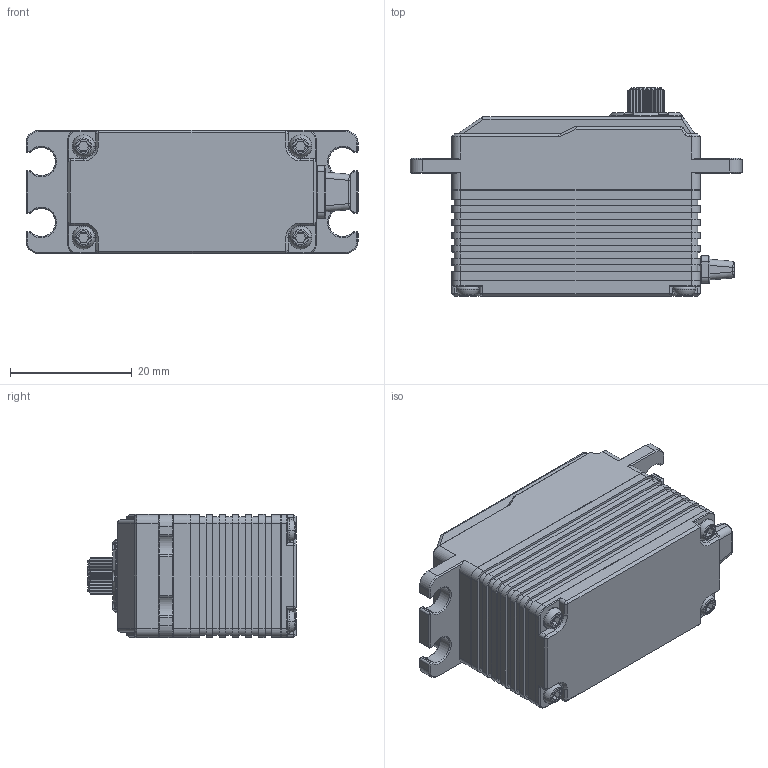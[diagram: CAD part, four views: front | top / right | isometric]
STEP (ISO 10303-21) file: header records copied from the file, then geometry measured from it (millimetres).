
FILE_DESCRIPTION((''),'2;1');
FILE_NAME('RS330BLPW','2025-03-20T',('扂'),(''),'PRO/ENGINEER BY PARAMETRIC TECHNOLOGY CORPORATION, 2010280','PRO/ENGINEER BY PARAMETRIC TECHNOLOGY CORPORATION, 2010280','');
FILE_SCHEMA(('CONFIG_CONTROL_DESIGN'));
Length unit declared in the file: millimetre
Products named in the file (1): DDJ-STDLOW2-A66-AGF
Bounding box: 54.5 x 34.2 x 20.2 mm (x, y, z)
Volume: 24079.4 mm3; surface area: 6627.1 mm2
Topology: 1 solids, 1 shells, 777 faces, 1985 edges, 1229 vertices
Faces by surface type: plane 316, cylinder 288, cone 88, torus 55, bspline 18, sphere 12
Entity records: 26856 total; most frequent: CARTESIAN_POINT 7989, DIRECTION 3988, ORIENTED_EDGE 3958, EDGE_CURVE 1979, AXIS2_PLACEMENT_3D 1456, VERTEX_POINT 1229, VECTOR 1076, LINE 1076
